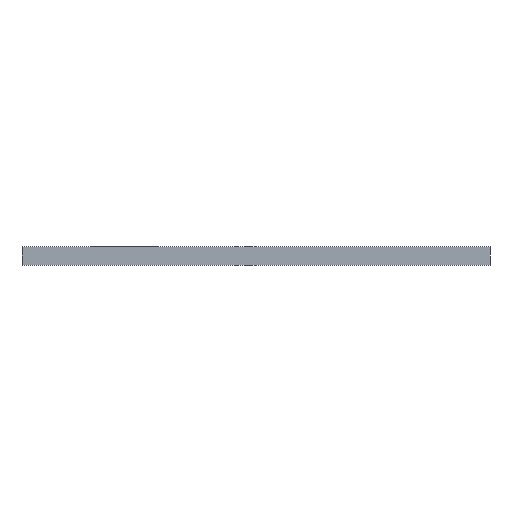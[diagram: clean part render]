
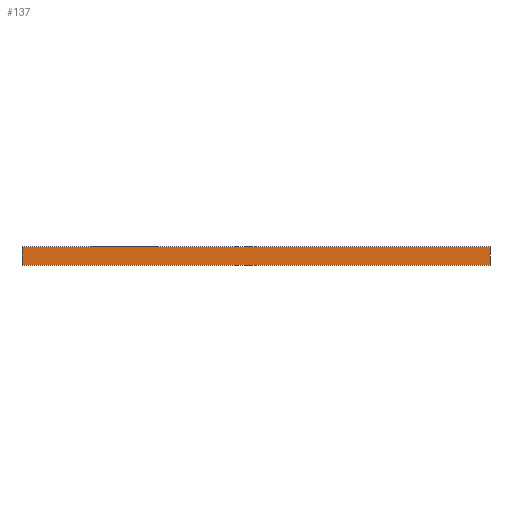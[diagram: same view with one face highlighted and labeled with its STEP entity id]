
A CAD part, front view. The second image highlights one B-rep face of the part: STEP entity #137.
In plain terms, the highlighted planar face has unit normal (0, -1, 0).
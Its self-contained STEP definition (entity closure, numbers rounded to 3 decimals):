
#21 = EDGE_CURVE('',#22,#24,#26,.T.);
#22 = VERTEX_POINT('',#23);
#23 = CARTESIAN_POINT('',(0.,0.,0.));
#24 = VERTEX_POINT('',#25);
#25 = CARTESIAN_POINT('',(0.,0.,1.2));
#26 = SURFACE_CURVE('',#27,(#31,#43),.PCURVE_S1.);
#27 = LINE('',#28,#29);
#28 = CARTESIAN_POINT('',(0.,0.,0.));
#29 = VECTOR('',#30,1.);
#30 = DIRECTION('',(0.,0.,1.));
#31 = PCURVE('',#32,#37);
#32 = PLANE('',#33);
#33 = AXIS2_PLACEMENT_3D('',#34,#35,#36);
#34 = CARTESIAN_POINT('',(0.,0.,0.));
#35 = DIRECTION('',(1.,0.,0.));
#36 = DIRECTION('',(0.,0.,1.));
#37 = DEFINITIONAL_REPRESENTATION('',(#38),#42);
#38 = LINE('',#39,#40);
#39 = CARTESIAN_POINT('',(0.,0.));
#40 = VECTOR('',#41,1.);
#41 = DIRECTION('',(1.,0.));
#42 = ( GEOMETRIC_REPRESENTATION_CONTEXT(2) 
PARAMETRIC_REPRESENTATION_CONTEXT() REPRESENTATION_CONTEXT('2D SPACE',''
  ) );
#43 = PCURVE('',#44,#49);
#44 = PLANE('',#45);
#45 = AXIS2_PLACEMENT_3D('',#46,#47,#48);
#46 = CARTESIAN_POINT('',(0.,0.,0.));
#47 = DIRECTION('',(0.,1.,0.));
#48 = DIRECTION('',(0.,0.,1.));
#49 = DEFINITIONAL_REPRESENTATION('',(#50),#54);
#50 = LINE('',#51,#52);
#51 = CARTESIAN_POINT('',(0.,0.));
#52 = VECTOR('',#53,1.);
#53 = DIRECTION('',(1.,0.));
#54 = ( GEOMETRIC_REPRESENTATION_CONTEXT(2) 
PARAMETRIC_REPRESENTATION_CONTEXT() REPRESENTATION_CONTEXT('2D SPACE',''
  ) );
#72 = PLANE('',#73);
#73 = AXIS2_PLACEMENT_3D('',#74,#75,#76);
#74 = CARTESIAN_POINT('',(0.,0.,0.));
#75 = DIRECTION('',(0.,0.,1.));
#76 = DIRECTION('',(1.,0.,0.));
#126 = PLANE('',#127);
#127 = AXIS2_PLACEMENT_3D('',#128,#129,#130);
#128 = CARTESIAN_POINT('',(0.,0.,1.2));
#129 = DIRECTION('',(0.,0.,1.));
#130 = DIRECTION('',(1.,0.,0.));
#137 = ADVANCED_FACE('',(#138),#44,.F.);
#138 = FACE_BOUND('',#139,.F.);
#139 = EDGE_LOOP('',(#140,#163,#164,#187));
#140 = ORIENTED_EDGE('',*,*,#141,.F.);
#141 = EDGE_CURVE('',#22,#142,#144,.T.);
#142 = VERTEX_POINT('',#143);
#143 = CARTESIAN_POINT('',(30.,0.,0.));
#144 = SURFACE_CURVE('',#145,(#149,#156),.PCURVE_S1.);
#145 = LINE('',#146,#147);
#146 = CARTESIAN_POINT('',(0.,0.,0.));
#147 = VECTOR('',#148,1.);
#148 = DIRECTION('',(1.,0.,0.));
#149 = PCURVE('',#44,#150);
#150 = DEFINITIONAL_REPRESENTATION('',(#151),#155);
#151 = LINE('',#152,#153);
#152 = CARTESIAN_POINT('',(0.,0.));
#153 = VECTOR('',#154,1.);
#154 = DIRECTION('',(0.,1.));
#155 = ( GEOMETRIC_REPRESENTATION_CONTEXT(2) 
PARAMETRIC_REPRESENTATION_CONTEXT() REPRESENTATION_CONTEXT('2D SPACE',''
  ) );
#156 = PCURVE('',#72,#157);
#157 = DEFINITIONAL_REPRESENTATION('',(#158),#162);
#158 = LINE('',#159,#160);
#159 = CARTESIAN_POINT('',(0.,0.));
#160 = VECTOR('',#161,1.);
#161 = DIRECTION('',(1.,0.));
#162 = ( GEOMETRIC_REPRESENTATION_CONTEXT(2) 
PARAMETRIC_REPRESENTATION_CONTEXT() REPRESENTATION_CONTEXT('2D SPACE',''
  ) );
#163 = ORIENTED_EDGE('',*,*,#21,.T.);
#164 = ORIENTED_EDGE('',*,*,#165,.T.);
#165 = EDGE_CURVE('',#24,#166,#168,.T.);
#166 = VERTEX_POINT('',#167);
#167 = CARTESIAN_POINT('',(30.,0.,1.2));
#168 = SURFACE_CURVE('',#169,(#173,#180),.PCURVE_S1.);
#169 = LINE('',#170,#171);
#170 = CARTESIAN_POINT('',(0.,0.,1.2));
#171 = VECTOR('',#172,1.);
#172 = DIRECTION('',(1.,0.,0.));
#173 = PCURVE('',#44,#174);
#174 = DEFINITIONAL_REPRESENTATION('',(#175),#179);
#175 = LINE('',#176,#177);
#176 = CARTESIAN_POINT('',(1.2,0.));
#177 = VECTOR('',#178,1.);
#178 = DIRECTION('',(0.,1.));
#179 = ( GEOMETRIC_REPRESENTATION_CONTEXT(2) 
PARAMETRIC_REPRESENTATION_CONTEXT() REPRESENTATION_CONTEXT('2D SPACE',''
  ) );
#180 = PCURVE('',#126,#181);
#181 = DEFINITIONAL_REPRESENTATION('',(#182),#186);
#182 = LINE('',#183,#184);
#183 = CARTESIAN_POINT('',(0.,0.));
#184 = VECTOR('',#185,1.);
#185 = DIRECTION('',(1.,0.));
#186 = ( GEOMETRIC_REPRESENTATION_CONTEXT(2) 
PARAMETRIC_REPRESENTATION_CONTEXT() REPRESENTATION_CONTEXT('2D SPACE',''
  ) );
#187 = ORIENTED_EDGE('',*,*,#188,.F.);
#188 = EDGE_CURVE('',#142,#166,#189,.T.);
#189 = SURFACE_CURVE('',#190,(#194,#201),.PCURVE_S1.);
#190 = LINE('',#191,#192);
#191 = CARTESIAN_POINT('',(30.,0.,0.));
#192 = VECTOR('',#193,1.);
#193 = DIRECTION('',(0.,0.,1.));
#194 = PCURVE('',#44,#195);
#195 = DEFINITIONAL_REPRESENTATION('',(#196),#200);
#196 = LINE('',#197,#198);
#197 = CARTESIAN_POINT('',(0.,30.));
#198 = VECTOR('',#199,1.);
#199 = DIRECTION('',(1.,0.));
#200 = ( GEOMETRIC_REPRESENTATION_CONTEXT(2) 
PARAMETRIC_REPRESENTATION_CONTEXT() REPRESENTATION_CONTEXT('2D SPACE',''
  ) );
#201 = PCURVE('',#202,#207);
#202 = PLANE('',#203);
#203 = AXIS2_PLACEMENT_3D('',#204,#205,#206);
#204 = CARTESIAN_POINT('',(30.,0.,0.));
#205 = DIRECTION('',(1.,0.,0.));
#206 = DIRECTION('',(0.,0.,1.));
#207 = DEFINITIONAL_REPRESENTATION('',(#208),#212);
#208 = LINE('',#209,#210);
#209 = CARTESIAN_POINT('',(0.,0.));
#210 = VECTOR('',#211,1.);
#211 = DIRECTION('',(1.,0.));
#212 = ( GEOMETRIC_REPRESENTATION_CONTEXT(2) 
PARAMETRIC_REPRESENTATION_CONTEXT() REPRESENTATION_CONTEXT('2D SPACE',''
  ) );
